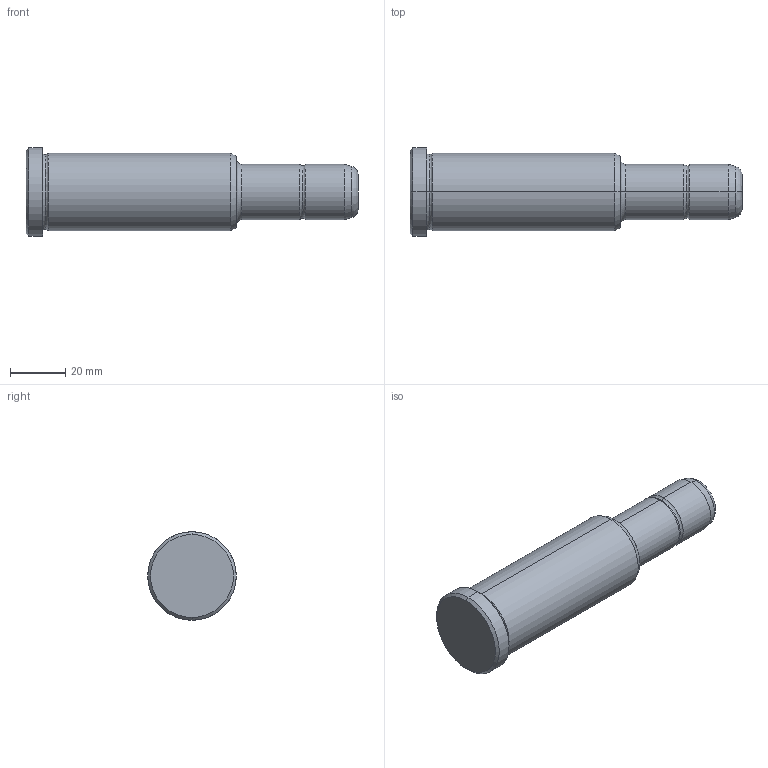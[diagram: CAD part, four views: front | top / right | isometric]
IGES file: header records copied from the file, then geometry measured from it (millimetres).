
Start section: START RECORD GO HERE.
Global section: file name: 351-20X76X120.igs; native system: DASSAULT SYSTEMES CATIA V5 R20 - www.3ds.com; preprocessor: CATIA Version 5 Release 20 ; author: Utente; organization: NB04-ASUS; date: 20210827.151136; units: millimetre
Bounding box: 120 x 32 x 32 mm (x, y, z)
Surface area: 10852.7 mm2 (no closed solid volume)
Topology: 0 solids, 0 shells, 30 faces, 172 edges, 172 vertices
Faces by surface type: revolution 26, plane 4
